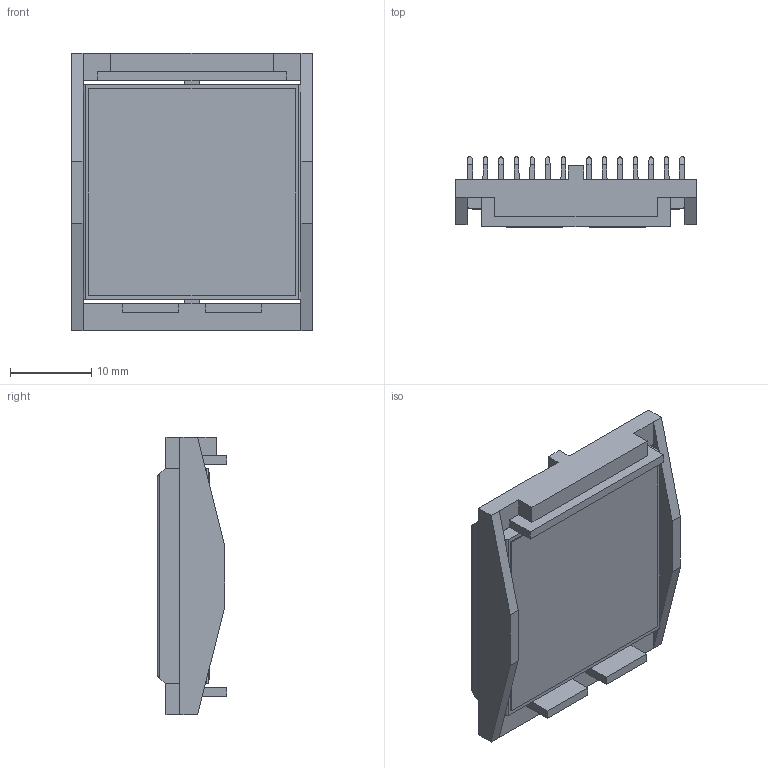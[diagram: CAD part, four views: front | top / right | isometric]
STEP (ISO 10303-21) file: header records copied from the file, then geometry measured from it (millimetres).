
FILE_DESCRIPTION (( 'STEP AP214' ), '1' );
FILE_NAME ('INL27001-6-1.7Y.STEP', '2023-02-21T21:33:03', ( '' ), ( '' ), 'SwSTEP 2.0', 'SolidWorks 2020', '' );
FILE_SCHEMA (( 'AUTOMOTIVE_DESIGN' ));
Length unit declared in the file: millimetre
Products named in the file (1): INL27001-6-1.7Y
Bounding box: 29.6 x 8.6 x 34.1 mm (x, y, z)
Volume: 3500.4 mm3; surface area: 8036.5 mm2
Topology: 3 solids, 3 shells, 168 faces, 488 edges, 324 vertices
Faces by surface type: plane 126, cylinder 42
Entity records: 7380 total; most frequent: CARTESIAN_POINT 1065, ORIENTED_EDGE 976, DIRECTION 854, EDGE_CURVE 488, VECTOR 404, LINE 404, VERTEX_POINT 324, AXIS2_PLACEMENT_3D 225
